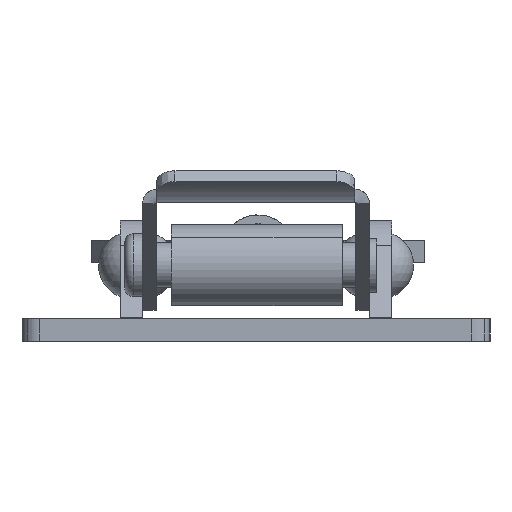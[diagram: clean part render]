
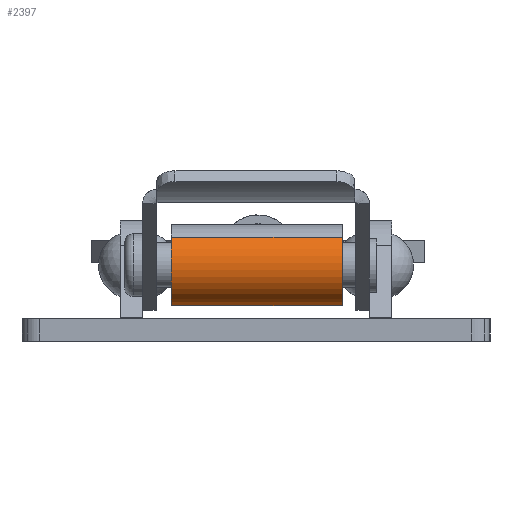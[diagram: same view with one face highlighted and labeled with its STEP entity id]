
A CAD part, left-side view. The second image highlights one B-rep face of the part: STEP entity #2397.
In plain terms, the highlighted cylindrical face has radius 4.5 mm (diameter 9 mm), a partial arc.
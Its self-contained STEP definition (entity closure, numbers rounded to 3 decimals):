
#2328=CARTESIAN_POINT('',(-9.5,2.236,6.606));
#2329=VERTEX_POINT('',#2328);
#2330=CARTESIAN_POINT('',(9.5,2.236,6.606));
#2331=VERTEX_POINT('',#2330);
#2332=CARTESIAN_POINT('',(-9.5,2.236,6.606));
#2333=DIRECTION('',(1.0,0.0,0.0));
#2334=VECTOR('',#2333,19.0);
#2335=LINE('',#2332,#2334);
#2336=EDGE_CURVE('',#2329,#2331,#2335,.T.);
#2365=CARTESIAN_POINT('',(-7.175,-1.02,3.5));
#2366=DIRECTION('',(1.0,0.,0.));
#2367=DIRECTION('',(0.,-0.724,-0.69));
#2368=AXIS2_PLACEMENT_3D('',#2365,#2366,#2367);
#2369=CYLINDRICAL_SURFACE('',#2368,4.5);
#2370=CARTESIAN_POINT('',(9.5,-4.276,0.394));
#2371=VERTEX_POINT('',#2370);
#2372=CARTESIAN_POINT('',(-9.5,-4.276,0.394));
#2373=VERTEX_POINT('',#2372);
#2374=CARTESIAN_POINT('',(9.5,-4.276,0.394));
#2375=DIRECTION('',(-1.0,0.0,0.0));
#2376=VECTOR('',#2375,19.0);
#2377=LINE('',#2374,#2376);
#2378=EDGE_CURVE('',#2371,#2373,#2377,.T.);
#2379=ORIENTED_EDGE('',*,*,#2378,.F.);
#2380=CARTESIAN_POINT('',(9.5,-1.02,3.5));
#2381=DIRECTION('',(1.0,0.0,0.0));
#2382=DIRECTION('',(0.0,0.883,-0.469));
#2383=AXIS2_PLACEMENT_3D('',#2380,#2381,#2382);
#2384=CIRCLE('',#2383,4.5);
#2385=EDGE_CURVE('',#2331,#2371,#2384,.T.);
#2386=ORIENTED_EDGE('',*,*,#2385,.F.);
#2387=ORIENTED_EDGE('',*,*,#2336,.F.);
#2388=CARTESIAN_POINT('',(-9.5,-1.02,3.5));
#2389=DIRECTION('',(-1.0,0.0,0.0));
#2390=DIRECTION('',(0.0,0.0,-1.0));
#2391=AXIS2_PLACEMENT_3D('',#2388,#2389,#2390);
#2392=CIRCLE('',#2391,4.5);
#2393=EDGE_CURVE('',#2373,#2329,#2392,.T.);
#2394=ORIENTED_EDGE('',*,*,#2393,.F.);
#2395=EDGE_LOOP('',(#2379,#2386,#2387,#2394));
#2396=FACE_OUTER_BOUND('',#2395,.T.);
#2397=ADVANCED_FACE('',(#2396),#2369,.T.);
